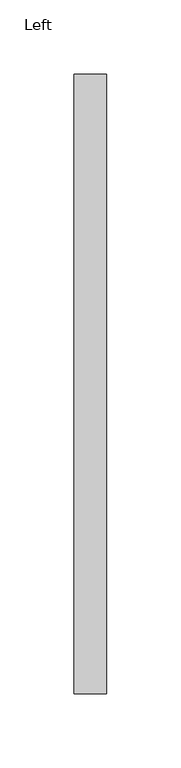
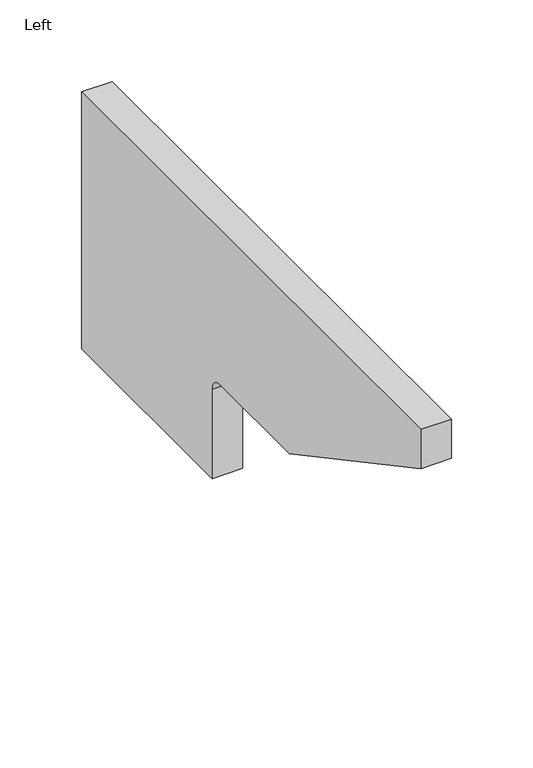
"""IFC4 building model written with IfcOpenShell, lengths in millimetres: furniture geometry, HermanMiller_Ethospace_E2833_SqEdgeCounterTopEndCap : Left."""

from ifc_helpers import new_model, si_unit, point, frame, frame_2d, origin, place, context, project, spatial, polyline, circle_curve, trimmed, segment, composite_curve, outline, extrude, source, transform, mapped, element, save


def left_ebece1d7(model_context):
    return source(origin(), model_context, "Body", "SweptSolid", [
        extrude(outline(composite_curve([segment(polyline([(207.9625, 1081.2859375), (207.9625, 889.0), (48.2600024, 889.0), (48.2600024, 955.697897)]), True, "CONTINUOUS"), segment(trimmed(circle_curve(frame_2d((38.7578995, 955.697897)), 9.502103), [point((48.2600024, 955.697897))], [point((38.7578995, 965.2))], True, "CARTESIAN"), True, "CONTINUOUS"), segment(polyline([(38.7578995, 965.2), (-46.926484, 965.2), (-207.9625, 1051.8219318), (-207.9625, 1081.2859375), (207.9625, 1081.2859375)]), True, "CONTINUOUS")], self_intersect=False)), frame((-10.8148437, 0.0, 0.0), z_axis=(1.0, 0.0, 0.0), x_axis=(0.0, 1.0, 0.0)), (0.0, 0.0, 1.0), 21.6296875),
    ])


if __name__ == "__main__":
    model = new_model("IFC4")
    model_context = context("Model", 3, world=origin())
    ifc_project = project(units=[si_unit("LENGTHUNIT", "METRE", prefix="MILLI")], contexts=[model_context])
    site = spatial("IfcSite", under=ifc_project)
    building = spatial("IfcBuilding", under=site)
    placement = place(None, origin())
    left_shape = left_ebece1d7(model_context)
    element("IfcFurniture", 1, ObjectType="HermanMiller_Ethospace_E2833_SqEdgeCounterTopEndCap : Left", at=placement, inside=building, context=model_context, shape_type="MappedRepresentation", body=[
        mapped(left_shape, transform((0.0, 0.0, 0.0), x_axis=(1.0, 0.0, 0.0), y_axis=(0.0, 1.0, 0.0), z_axis=(0.0, 0.0, 1.0))),
    ])
    save(model, "model.ifc")
